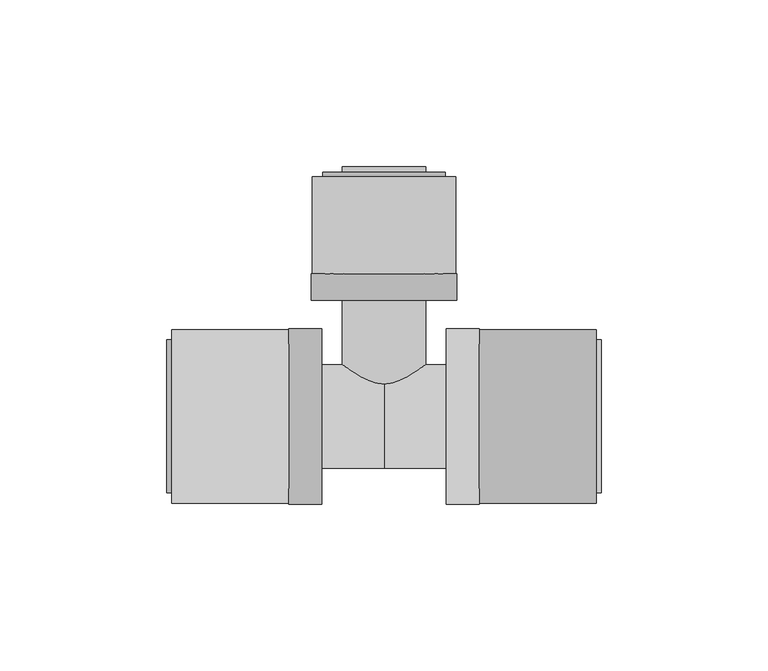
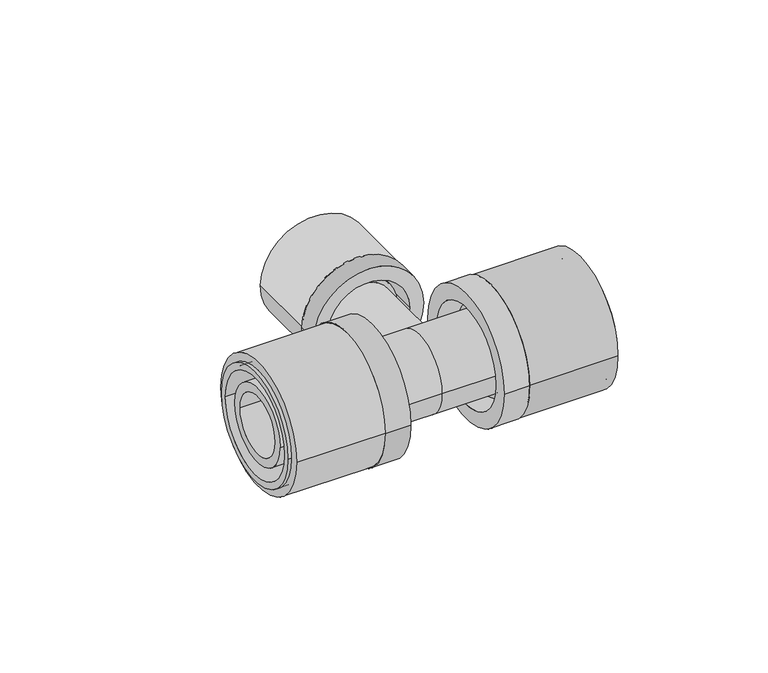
"""IFC4 building model written with IfcOpenShell, lengths in millimetres: pipe fitting geometry, FASTLOC_T-piece_LX : FSL T-Piece LX CZ."""

from ifc_helpers import new_model, si_unit, point, frame, origin, origin_2d, place, context, project, spatial, polyline, circle_curve, trimmed, segment, composite_curve, outline, extrude, source, transform, mapped, element, save
from ifc_brep_helpers import plane_surface, cylinder_surface, revolved_surface, advanced_brep


def pipe_fitting_7e3be5b8(model_context):
    return source(origin(), model_context, "Body", "SolidModel", [
        extrude(outline(composite_curve([segment(trimmed(circle_curve(origin_2d(), 26.0), [point((-26.0, 0.0))], [point((26.0, 0.0))], False, "CARTESIAN"), True, "CONTINUOUS"), segment(trimmed(circle_curve(origin_2d(), 26.0), [point((26.0, 0.0))], [point((-26.0, 0.0))], False, "CARTESIAN"), True, "CONTINUOUS")], self_intersect=False), holes=[composite_curve([segment(trimmed(circle_curve(origin_2d(), 21.25), [point((-21.25, 0.0))], [point((21.25, 0.0))], True, "CARTESIAN"), True, "CONTINUOUS"), segment(trimmed(circle_curve(origin_2d(), 21.25), [point((21.25, 0.0))], [point((-21.25, 0.0))], True, "CARTESIAN"), True, "CONTINUOUS")], self_intersect=False)]), frame((28.6, 0.0, 0.0), z_axis=(1.0, 0.0, 0.0), x_axis=(0.0, 1.0, 0.0)), (0.0, 0.0, 1.0), 35.0),
        advanced_brep(
        [(28.6, 26.3, 0.0), (28.6, -26.3, 0.0), (18.6, -26.3, 0.0), (18.6, 26.3, 0.0), (65.1, 22.9, 0.0), (65.1, -22.9, 0.0), (28.6, -22.9, 0.0), (28.6, 22.9, 0.0), (18.6, 20.2, 0.0), (18.6, -20.2, 0.0), (65.1, -20.2, 0.0), (65.1, 20.2, 0.0)],
        [
            (0, 1, circle_curve(frame((28.6, 0.0, 0.0), z_axis=(-1.0, 0.0, 0.0), x_axis=(0.0, -1.0, 0.0)), 26.3)),
            (1, 2),
            (2, 3, circle_curve(frame((18.6, 0.0, 0.0), z_axis=(1.0, 0.0, 0.0), x_axis=(0.0, -1.0, 0.0)), 26.3)),
            (3, 0),
            (4, 5, circle_curve(frame((65.1, 0.0, 0.0), z_axis=(-1.0, 0.0, 0.0), x_axis=(0.0, -1.0, 0.0)), 22.9)),
            (5, 6),
            (6, 7, circle_curve(frame((28.6, 0.0, 0.0), z_axis=(1.0, 0.0, 0.0), x_axis=(0.0, -1.0, 0.0)), 22.9)),
            (7, 4),
            (8, 9, circle_curve(frame((18.6, 0.0, 0.0), z_axis=(-1.0, 0.0, 0.0), x_axis=(0.0, -1.0, 0.0)), 20.2)),
            (9, 10),
            (10, 11, circle_curve(frame((65.1, 0.0, 0.0), z_axis=(1.0, 0.0, 0.0), x_axis=(0.0, -1.0, 0.0)), 20.2)),
            (11, 8),
            (1, 0, circle_curve(frame((28.6, 0.0, 0.0), z_axis=(-1.0, 0.0, 0.0), x_axis=(0.0, 1.0, 0.0)), 26.3)),
            (3, 2, circle_curve(frame((18.6, 0.0, 0.0), z_axis=(1.0, 0.0, 0.0), x_axis=(0.0, 1.0, 0.0)), 26.3)),
            (6, 7, circle_curve(frame((28.6, 0.0, 0.0), z_axis=(-1.0, 0.0, 0.0), x_axis=(0.0, 1.0, 0.0)), 22.9)),
            (5, 4, circle_curve(frame((65.1, 0.0, 0.0), z_axis=(-1.0, 0.0, 0.0), x_axis=(0.0, 1.0, 0.0)), 22.9)),
            (10, 11, circle_curve(frame((65.1, 0.0, 0.0), z_axis=(-1.0, 0.0, 0.0), x_axis=(0.0, 1.0, 0.0)), 20.2)),
            (9, 8, circle_curve(frame((18.6, 0.0, 0.0), z_axis=(-1.0, 0.0, 0.0), x_axis=(0.0, 1.0, 0.0)), 20.2)),
        ],
        [
            cylinder_surface(frame((18.6, 0.0, 0.0), z_axis=(1.0, 0.0, 0.0), x_axis=(0.0, -1.0, 0.0)), 26.3),
            cylinder_surface(frame((18.6, 0.0, 0.0), z_axis=(1.0, 0.0, 0.0), x_axis=(0.0, -1.0, 0.0)), 22.9),
            revolved_surface(polyline([(65.1, -20.2, 0.0), (18.6, -20.2, 0.0)]), (18.6, 0.0, 0.0), (1.0, 0.0, 0.0)),
            cylinder_surface(frame((18.6, 0.0, 0.0), z_axis=(1.0, 0.0, 0.0), x_axis=(0.0, 1.0, 0.0)), 26.3),
            plane_surface(frame((28.6, 0.0, 0.0), z_axis=(1.0, 0.0, 0.0), x_axis=(0.0, 1.0, 0.0))),
            cylinder_surface(frame((18.6, 0.0, 0.0), z_axis=(1.0, 0.0, 0.0), x_axis=(0.0, 1.0, 0.0)), 22.9),
            plane_surface(frame((65.1, 0.0, 0.0), z_axis=(1.0, 0.0, 0.0), x_axis=(0.0, 1.0, 0.0))),
            revolved_surface(polyline([(65.1, 20.2, 0.0), (18.6, 20.2, 0.0)]), (18.6, 0.0, 0.0), (1.0, 0.0, 0.0)),
            plane_surface(frame((18.6, 0.0, 0.0), z_axis=(-1.0, 0.0, 0.0), x_axis=(0.0, 1.0, 0.0))),
        ],
        [
            (0, [[1, 2, 3, 4]]),
            (1, [[5, 6, 7, 8]]),
            (2, [[9, 10, 11, 12]]),
            (3, [[13, -4, 14, -2]]),
            (4, [[-13, -1], [15, -7]]),
            (5, [[16, -8, -15, -6]]),
            (6, [[-16, -5], [17, -11]]),
            (7, [[18, -12, -17, -10]]),
            (8, [[-14, -3], [-18, -9]]),
        ],
    ),
        extrude(outline(composite_curve([segment(trimmed(circle_curve(origin_2d(), 26.0), [point((26.0, 0.0))], [point((-26.0, 0.0))], False, "CARTESIAN"), True, "CONTINUOUS"), segment(trimmed(circle_curve(origin_2d(), 26.0), [point((-26.0, 0.0))], [point((26.0, 0.0))], False, "CARTESIAN"), True, "CONTINUOUS")], self_intersect=False), holes=[composite_curve([segment(trimmed(circle_curve(origin_2d(), 21.25), [point((21.25, 0.0))], [point((-21.25, 0.0))], True, "CARTESIAN"), True, "CONTINUOUS"), segment(trimmed(circle_curve(origin_2d(), 21.25), [point((-21.25, 0.0))], [point((21.25, 0.0))], True, "CARTESIAN"), True, "CONTINUOUS")], self_intersect=False)]), frame((-63.6, 0.0, 0.0), z_axis=(1.0, 0.0, 0.0), x_axis=(0.0, 1.0, 0.0)), (0.0, 0.0, 1.0), 35.0),
        advanced_brep(
        [(-28.6, -26.3, 0.0), (-28.6, 26.3, 0.0), (-18.6, 26.3, 0.0), (-18.6, -26.3, 0.0), (-65.1, -22.9, 0.0), (-65.1, 22.9, 0.0), (-28.6, 22.9, 0.0), (-28.6, -22.9, 0.0), (-18.6, -20.2, 0.0), (-18.6, 20.2, 0.0), (-65.1, 20.2, 0.0), (-65.1, -20.2, 0.0)],
        [
            (0, 1, circle_curve(frame((-28.6, 0.0, 0.0), z_axis=(1.0, 0.0, 0.0), x_axis=(0.0, 1.0, 0.0)), 26.3)),
            (1, 2),
            (2, 3, circle_curve(frame((-18.6, 0.0, 0.0), z_axis=(-1.0, 0.0, 0.0), x_axis=(0.0, 1.0, 0.0)), 26.3)),
            (3, 0),
            (4, 5, circle_curve(frame((-65.1, 0.0, 0.0), z_axis=(1.0, 0.0, 0.0), x_axis=(0.0, 1.0, 0.0)), 22.9)),
            (5, 6),
            (6, 7, circle_curve(frame((-28.6, 0.0, 0.0), z_axis=(-1.0, 0.0, 0.0), x_axis=(0.0, 1.0, 0.0)), 22.9)),
            (7, 4),
            (8, 9, circle_curve(frame((-18.6, 0.0, 0.0), z_axis=(1.0, 0.0, 0.0), x_axis=(0.0, 1.0, 0.0)), 20.2)),
            (9, 10),
            (10, 11, circle_curve(frame((-65.1, 0.0, 0.0), z_axis=(-1.0, 0.0, 0.0), x_axis=(0.0, 1.0, 0.0)), 20.2)),
            (11, 8),
            (1, 0, circle_curve(frame((-28.6, 0.0, 0.0), z_axis=(1.0, 0.0, 0.0), x_axis=(0.0, -1.0, 0.0)), 26.3)),
            (3, 2, circle_curve(frame((-18.6, 0.0, 0.0), z_axis=(-1.0, 0.0, 0.0), x_axis=(0.0, -1.0, 0.0)), 26.3)),
            (6, 7, circle_curve(frame((-28.6, 0.0, 0.0), z_axis=(1.0, 0.0, 0.0), x_axis=(0.0, -1.0, 0.0)), 22.9)),
            (5, 4, circle_curve(frame((-65.1, 0.0, 0.0), z_axis=(1.0, 0.0, 0.0), x_axis=(0.0, -1.0, 0.0)), 22.9)),
            (10, 11, circle_curve(frame((-65.1, 0.0, 0.0), z_axis=(1.0, 0.0, 0.0), x_axis=(0.0, -1.0, 0.0)), 20.2)),
            (9, 8, circle_curve(frame((-18.6, 0.0, 0.0), z_axis=(1.0, 0.0, 0.0), x_axis=(0.0, -1.0, 0.0)), 20.2)),
        ],
        [
            cylinder_surface(frame((-18.6, 0.0, 0.0), z_axis=(-1.0, 0.0, 0.0), x_axis=(0.0, 1.0, 0.0)), 26.3),
            cylinder_surface(frame((-18.6, 0.0, 0.0), z_axis=(-1.0, 0.0, 0.0), x_axis=(0.0, 1.0, 0.0)), 22.9),
            revolved_surface(polyline([(-65.1, 20.2, 0.0), (-18.6, 20.2, 0.0)]), (-18.6, 0.0, 0.0), (-1.0, 0.0, 0.0)),
            cylinder_surface(frame((-18.6, 0.0, 0.0), z_axis=(-1.0, 0.0, 0.0), x_axis=(0.0, -1.0, 0.0)), 26.3),
            plane_surface(frame((-28.6, 0.0, 0.0), z_axis=(-1.0, 0.0, 0.0), x_axis=(0.0, -1.0, 0.0))),
            cylinder_surface(frame((-18.6, 0.0, 0.0), z_axis=(-1.0, 0.0, 0.0), x_axis=(0.0, -1.0, 0.0)), 22.9),
            plane_surface(frame((-65.1, 0.0, 0.0), z_axis=(-1.0, 0.0, 0.0), x_axis=(0.0, -1.0, 0.0))),
            revolved_surface(polyline([(-65.1, -20.2, 0.0), (-18.6, -20.2, 0.0)]), (-18.6, 0.0, 0.0), (-1.0, 0.0, 0.0)),
            plane_surface(frame((-18.6, 0.0, 0.0), z_axis=(1.0, 0.0, 0.0), x_axis=(0.0, -1.0, 0.0))),
        ],
        [
            (0, [[1, 2, 3, 4]]),
            (1, [[5, 6, 7, 8]]),
            (2, [[9, 10, 11, 12]]),
            (3, [[13, -4, 14, -2]]),
            (4, [[-13, -1], [15, -7]]),
            (5, [[16, -8, -15, -6]]),
            (6, [[-16, -5], [17, -11]]),
            (7, [[18, -12, -17, -10]]),
            (8, [[-14, -3], [-18, -9]]),
        ],
    ),
        extrude(outline(composite_curve([segment(trimmed(circle_curve(origin_2d(), 21.5), [point((0.0, 21.5))], [point((0.0, -21.5))], False, "CARTESIAN"), True, "CONTINUOUS"), segment(trimmed(circle_curve(origin_2d(), 21.5), [point((0.0, -21.5))], [point((0.0, 21.5))], False, "CARTESIAN"), True, "CONTINUOUS")], self_intersect=False), holes=[composite_curve([segment(trimmed(circle_curve(origin_2d(), 16.85), [point((0.0, 16.85))], [point((0.0, -16.85))], True, "CARTESIAN"), True, "CONTINUOUS"), segment(trimmed(circle_curve(origin_2d(), 16.85), [point((0.0, -16.85))], [point((0.0, 16.85))], True, "CARTESIAN"), True, "CONTINUOUS")], self_intersect=False)]), frame((0.0, 42.8, 0.0), z_axis=(0.0, 1.0, 0.0), x_axis=(0.0, 0.0, 1.0)), (0.0, 0.0, 1.0), 29.0),
        advanced_brep(
        [(-21.8, 42.8, 0.0), (21.8, 42.8, 0.0), (21.8, 34.8, 0.0), (-21.8, 34.8, 0.0), (-18.35, 73.1, 0.0), (18.35, 73.1, 0.0), (18.35, 42.8, 0.0), (-18.35, 42.8, 0.0), (-16.2, 34.8, 0.0), (16.2, 34.8, 0.0), (16.2, 73.1, 0.0), (-16.2, 73.1, 0.0)],
        [
            (0, 1, circle_curve(frame((0.0, 42.8, 0.0), z_axis=(0.0, -1.0, 0.0), x_axis=(1.0, 0.0, 0.0)), 21.8)),
            (1, 2),
            (2, 3, circle_curve(frame((0.0, 34.8, 0.0), z_axis=(0.0, 1.0, 0.0), x_axis=(1.0, 0.0, 0.0)), 21.8)),
            (3, 0),
            (4, 5, circle_curve(frame((0.0, 73.1, 0.0), z_axis=(0.0, -1.0, 0.0), x_axis=(1.0, 0.0, 0.0)), 18.35)),
            (5, 6),
            (6, 7, circle_curve(frame((0.0, 42.8, 0.0), z_axis=(0.0, 1.0, 0.0), x_axis=(1.0, 0.0, 0.0)), 18.35)),
            (7, 4),
            (8, 9, circle_curve(frame((0.0, 34.8, 0.0), z_axis=(0.0, -1.0, 0.0), x_axis=(1.0, 0.0, 0.0)), 16.2)),
            (9, 10),
            (10, 11, circle_curve(frame((0.0, 73.1, 0.0), z_axis=(0.0, 1.0, 0.0), x_axis=(1.0, 0.0, 0.0)), 16.2)),
            (11, 8),
            (1, 0, circle_curve(frame((0.0, 42.8, 0.0), z_axis=(0.0, -1.0, 0.0), x_axis=(-1.0, 0.0, 0.0)), 21.8)),
            (3, 2, circle_curve(frame((0.0, 34.8, 0.0), z_axis=(0.0, 1.0, 0.0), x_axis=(-1.0, 0.0, 0.0)), 21.8)),
            (6, 7, circle_curve(frame((0.0, 42.8, 0.0), z_axis=(0.0, -1.0, 0.0), x_axis=(-1.0, 0.0, 0.0)), 18.35)),
            (5, 4, circle_curve(frame((0.0, 73.1, 0.0), z_axis=(0.0, -1.0, 0.0), x_axis=(-1.0, 0.0, 0.0)), 18.35)),
            (10, 11, circle_curve(frame((0.0, 73.1, 0.0), z_axis=(0.0, -1.0, 0.0), x_axis=(-1.0, 0.0, 0.0)), 16.2)),
            (9, 8, circle_curve(frame((0.0, 34.8, 0.0), z_axis=(0.0, -1.0, 0.0), x_axis=(-1.0, 0.0, 0.0)), 16.2)),
        ],
        [
            cylinder_surface(frame((0.0, 34.8, 0.0), z_axis=(0.0, 1.0, 0.0), x_axis=(1.0, 0.0, 0.0)), 21.8),
            cylinder_surface(frame((0.0, 34.8, 0.0), z_axis=(0.0, 1.0, 0.0), x_axis=(1.0, 0.0, 0.0)), 18.35),
            revolved_surface(polyline([(16.2, 73.1, 0.0), (16.2, 34.8, 0.0)]), (0.0, 34.8, 0.0), (0.0, 1.0, 0.0)),
            cylinder_surface(frame((0.0, 34.8, 0.0), z_axis=(0.0, 1.0, 0.0), x_axis=(-1.0, 0.0, 0.0)), 21.8),
            plane_surface(frame((0.0, 42.8, 0.0), z_axis=(0.0, 1.0, 0.0), x_axis=(-1.0, 0.0, 0.0))),
            cylinder_surface(frame((0.0, 34.8, 0.0), z_axis=(0.0, 1.0, 0.0), x_axis=(-1.0, 0.0, 0.0)), 18.35),
            plane_surface(frame((0.0, 73.1, 0.0), z_axis=(0.0, 1.0, 0.0), x_axis=(-1.0, 0.0, 0.0))),
            revolved_surface(polyline([(-16.2, 73.1, 0.0), (-16.2, 34.8, 0.0)]), (0.0, 34.8, 0.0), (0.0, 1.0, 0.0)),
            plane_surface(frame((0.0, 34.8, 0.0), z_axis=(0.0, -1.0, 0.0), x_axis=(-1.0, 0.0, 0.0))),
        ],
        [
            (0, [[1, 2, 3, 4]]),
            (1, [[5, 6, 7, 8]]),
            (2, [[9, 10, 11, 12]]),
            (3, [[13, -4, 14, -2]]),
            (4, [[-13, -1], [15, -7]]),
            (5, [[16, -8, -15, -6]]),
            (6, [[-16, -5], [17, -11]]),
            (7, [[18, -12, -17, -10]]),
            (8, [[-14, -3], [-18, -9]]),
        ],
    ),
        advanced_brep(
        [(0.0, 15.5, 0.0), (0.0, -15.5, 0.0), (-24.9, -15.5, 0.0), (-24.9, 15.5, 0.0), (24.9, 15.5, 0.0), (24.9, -15.5, 0.0), (28.6, 17.2, 0.0), (28.6, -17.2, 0.0), (24.9, -17.2, 0.0), (24.9, 17.2, 0.0), (64.1, 15.5, 0.0), (64.1, -15.5, 0.0), (28.6, -15.5, 0.0), (28.6, 15.5, 0.0), (-28.6, 15.5, 0.0), (-28.6, -15.5, 0.0), (-64.1, -15.5, 0.0), (-64.1, 15.5, 0.0), (-24.9, 17.2, 0.0), (-24.9, -17.2, 0.0), (-28.6, -17.2, 0.0), (-28.6, 17.2, 0.0), (64.1, -11.95, 0.0), (64.1, 11.95, 0.0), (-64.1, 11.95, 0.0), (-64.1, -11.95, 0.0), (0.0, 11.95, 0.0), (0.0, -11.95, 0.0)],
        [
            (0, 1, circle_curve(frame((0.0, 0.0, 0.0), z_axis=(-1.0, 0.0, 0.0), x_axis=(0.0, -1.0, 0.0)), 15.5)),
            (1, 2),
            (2, 3, circle_curve(frame((-24.9, 0.0, 0.0), z_axis=(1.0, 0.0, 0.0), x_axis=(0.0, -1.0, 0.0)), 15.5)),
            (3, 0),
            (4, 5, circle_curve(frame((24.9, 0.0, 0.0), z_axis=(-1.0, 0.0, 0.0), x_axis=(0.0, -1.0, 0.0)), 15.5)),
            (5, 1),
            (0, 4),
            (6, 7, circle_curve(frame((28.6, 0.0, 0.0), z_axis=(-1.0, 0.0, 0.0), x_axis=(0.0, -1.0, 0.0)), 17.2)),
            (7, 8),
            (8, 9, circle_curve(frame((24.9, 0.0, 0.0), z_axis=(1.0, 0.0, 0.0), x_axis=(0.0, -1.0, 0.0)), 17.2)),
            (9, 6),
            (10, 11, circle_curve(frame((64.1, 0.0, 0.0), z_axis=(-1.0, 0.0, 0.0), x_axis=(0.0, -1.0, 0.0)), 15.5)),
            (11, 12),
            (12, 13, circle_curve(frame((28.6, 0.0, 0.0), z_axis=(1.0, 0.0, 0.0), x_axis=(0.0, -1.0, 0.0)), 15.5)),
            (13, 10),
            (14, 15, circle_curve(frame((-28.6, 0.0, 0.0), z_axis=(-1.0, 0.0, 0.0), x_axis=(0.0, -1.0, 0.0)), 15.5)),
            (15, 16),
            (16, 17, circle_curve(frame((-64.1, 0.0, 0.0), z_axis=(1.0, 0.0, 0.0), x_axis=(0.0, -1.0, 0.0)), 15.5)),
            (17, 14),
            (18, 19, circle_curve(frame((-24.9, 0.0, 0.0), z_axis=(-1.0, 0.0, 0.0), x_axis=(0.0, -1.0, 0.0)), 17.2)),
            (19, 20),
            (20, 21, circle_curve(frame((-28.6, 0.0, 0.0), z_axis=(1.0, 0.0, 0.0), x_axis=(0.0, -1.0, 0.0)), 17.2)),
            (21, 18),
            (18, 19, circle_curve(frame((-24.9, 0.0, 0.0), z_axis=(1.0, 0.0, 0.0), x_axis=(0.0, 1.0, 0.0)), 17.2)),
            (2, 3, circle_curve(frame((-24.9, 0.0, 0.0), z_axis=(-1.0, 0.0, 0.0), x_axis=(0.0, 1.0, 0.0)), 15.5)),
            (1, 0, circle_curve(frame((0.0, 0.0, 0.0), z_axis=(-1.0, 0.0, 0.0), x_axis=(0.0, 1.0, 0.0)), 15.5)),
            (5, 4, circle_curve(frame((24.9, 0.0, 0.0), z_axis=(-1.0, 0.0, 0.0), x_axis=(0.0, 1.0, 0.0)), 15.5)),
            (8, 9, circle_curve(frame((24.9, 0.0, 0.0), z_axis=(-1.0, 0.0, 0.0), x_axis=(0.0, 1.0, 0.0)), 17.2)),
            (7, 6, circle_curve(frame((28.6, 0.0, 0.0), z_axis=(-1.0, 0.0, 0.0), x_axis=(0.0, 1.0, 0.0)), 17.2)),
            (12, 13, circle_curve(frame((28.6, 0.0, 0.0), z_axis=(-1.0, 0.0, 0.0), x_axis=(0.0, 1.0, 0.0)), 15.5)),
            (11, 10, circle_curve(frame((64.1, 0.0, 0.0), z_axis=(-1.0, 0.0, 0.0), x_axis=(0.0, 1.0, 0.0)), 15.5)),
            (22, 23, circle_curve(frame((64.1, 0.0, 0.0), z_axis=(-1.0, 0.0, 0.0), x_axis=(0.0, 1.0, 0.0)), 11.95)),
            (23, 22, circle_curve(frame((64.1, 0.0, 0.0), z_axis=(-1.0, 0.0, 0.0), x_axis=(0.0, -1.0, 0.0)), 11.95)),
            (16, 17, circle_curve(frame((-64.1, 0.0, 0.0), z_axis=(-1.0, 0.0, 0.0), x_axis=(0.0, 1.0, 0.0)), 15.5)),
            (24, 25, circle_curve(frame((-64.1, 0.0, 0.0), z_axis=(1.0, 0.0, 0.0), x_axis=(0.0, 1.0, 0.0)), 11.95)),
            (25, 24, circle_curve(frame((-64.1, 0.0, 0.0), z_axis=(1.0, 0.0, 0.0), x_axis=(0.0, -1.0, 0.0)), 11.95)),
            (15, 14, circle_curve(frame((-28.6, 0.0, 0.0), z_axis=(-1.0, 0.0, 0.0), x_axis=(0.0, 1.0, 0.0)), 15.5)),
            (20, 21, circle_curve(frame((-28.6, 0.0, 0.0), z_axis=(-1.0, 0.0, 0.0), x_axis=(0.0, 1.0, 0.0)), 17.2)),
            (26, 27, circle_curve(frame((0.0, 0.0, 0.0), z_axis=(-1.0, 0.0, 0.0), x_axis=(0.0, -1.0, 0.0)), 11.95)),
            (27, 22),
            (23, 26),
            (25, 27),
            (26, 24),
            (27, 26, circle_curve(frame((0.0, 0.0, 0.0), z_axis=(-1.0, 0.0, 0.0), x_axis=(0.0, 1.0, 0.0)), 11.95)),
        ],
        [
            cylinder_surface(frame((0.0, 0.0, 0.0), z_axis=(1.0, 0.0, 0.0), x_axis=(0.0, -1.0, 0.0)), 15.5),
            cylinder_surface(frame((0.0, 0.0, 0.0), z_axis=(1.0, 0.0, 0.0), x_axis=(0.0, -1.0, 0.0)), 17.2),
            plane_surface(frame((-24.9, 0.0, 0.0), z_axis=(1.0, 0.0, 0.0), x_axis=(0.0, 1.0, 0.0))),
            cylinder_surface(frame((0.0, 0.0, 0.0), z_axis=(1.0, 0.0, 0.0), x_axis=(0.0, 1.0, 0.0)), 15.5),
            plane_surface(frame((24.9, 0.0, 0.0), z_axis=(-1.0, 0.0, 0.0), x_axis=(0.0, 1.0, 0.0))),
            cylinder_surface(frame((0.0, 0.0, 0.0), z_axis=(1.0, 0.0, 0.0), x_axis=(0.0, 1.0, 0.0)), 17.2),
            plane_surface(frame((28.6, 0.0, 0.0), z_axis=(1.0, 0.0, 0.0), x_axis=(0.0, 1.0, 0.0))),
            plane_surface(frame((64.1, 0.0, 0.0), z_axis=(1.0, 0.0, 0.0), x_axis=(0.0, 1.0, 0.0))),
            plane_surface(frame((-64.1, 0.0, 0.0), z_axis=(-1.0, 0.0, 0.0), x_axis=(0.0, 1.0, 0.0))),
            plane_surface(frame((-28.6, 0.0, 0.0), z_axis=(-1.0, 0.0, 0.0), x_axis=(0.0, 1.0, 0.0))),
            revolved_surface(polyline([(64.1, -11.95, 0.0), (0.0, -11.95, 0.0)]), (0.0, 0.0, 0.0), (1.0, 0.0, 0.0)),
            revolved_surface(polyline([(0.0, -11.95, 0.0), (-64.1, -11.95, 0.0)]), (0.0, 0.0, 0.0), (1.0, 0.0, 0.0)),
            revolved_surface(polyline([(64.1, 11.95, 0.0), (0.0, 11.95, 0.0)]), (0.0, 0.0, 0.0), (1.0, 0.0, 0.0)),
            revolved_surface(polyline([(0.0, 11.95, 0.0), (-64.1, 11.95, 0.0)]), (0.0, 0.0, 0.0), (1.0, 0.0, 0.0)),
        ],
        [
            (0, [[1, 2, 3, 4]]),
            (0, [[5, 6, -1, 7]]),
            (1, [[8, 9, 10, 11]]),
            (0, [[12, 13, 14, 15]]),
            (0, [[16, 17, 18, 19]]),
            (1, [[20, 21, 22, 23]]),
            (2, [[24, -20], [25, -3]]),
            (3, [[26, -4, -25, -2]]),
            (3, [[27, -7, -26, -6]]),
            (4, [[28, -10], [-27, -5]]),
            (5, [[29, -11, -28, -9]]),
            (6, [[-29, -8], [30, -14]]),
            (3, [[31, -15, -30, -13]]),
            (7, [[-31, -12], [32, 33]]),
            (8, [[34, -18], [35, 36]]),
            (3, [[37, -19, -34, -17]]),
            (9, [[38, -22], [-37, -16]]),
            (5, [[-24, -23, -38, -21]]),
            (10, [[39, 40, -33, 41]]),
            (11, [[-36, 42, -39, 43]]),
            (12, [[44, -41, -32, -40]]),
            (13, [[-35, -43, -44, -42]]),
        ],
    ),
        advanced_brep(
        [(9.85, 74.8, 0.0), (-9.85, 74.8, 0.0), (-9.85, 0.0, 0.0), (9.85, 0.0, 0.0), (12.5, 0.0, 0.0), (-12.5, 0.0, 0.0), (-12.5, 39.8, 0.0), (12.5, 39.8, 0.0), (14.1, 39.8, 0.0), (-14.1, 39.8, 0.0), (-14.1, 42.8, 0.0), (14.1, 42.8, 0.0), (12.5, 42.8, 0.0), (-12.5, 42.8, 0.0), (-12.5, 74.8, 0.0), (12.5, 74.8, 0.0)],
        [
            (0, 1, circle_curve(frame((0.0, 74.8, 0.0), z_axis=(0.0, 1.0, 0.0), x_axis=(-1.0, 0.0, 0.0)), 9.85)),
            (1, 2),
            (2, 3, circle_curve(frame((0.0, 0.0, 0.0), z_axis=(0.0, -1.0, 0.0), x_axis=(-1.0, 0.0, 0.0)), 9.85)),
            (3, 0),
            (4, 5, circle_curve(frame((0.0, 0.0, 0.0), z_axis=(0.0, 1.0, 0.0), x_axis=(-1.0, 0.0, 0.0)), 12.5)),
            (5, 6),
            (6, 7, circle_curve(frame((0.0, 39.8, 0.0), z_axis=(0.0, -1.0, 0.0), x_axis=(-1.0, 0.0, 0.0)), 12.5)),
            (7, 4),
            (8, 9, circle_curve(frame((0.0, 39.8, 0.0), z_axis=(0.0, 1.0, 0.0), x_axis=(-1.0, 0.0, 0.0)), 14.1)),
            (9, 10),
            (10, 11, circle_curve(frame((0.0, 42.8, 0.0), z_axis=(0.0, -1.0, 0.0), x_axis=(-1.0, 0.0, 0.0)), 14.1)),
            (11, 8),
            (12, 13, circle_curve(frame((0.0, 42.8, 0.0), z_axis=(0.0, 1.0, 0.0), x_axis=(-1.0, 0.0, 0.0)), 12.5)),
            (13, 14),
            (14, 15, circle_curve(frame((0.0, 74.8, 0.0), z_axis=(0.0, -1.0, 0.0), x_axis=(-1.0, 0.0, 0.0)), 12.5)),
            (15, 12),
            (1, 0, circle_curve(frame((0.0, 74.8, 0.0), z_axis=(0.0, 1.0, 0.0), x_axis=(1.0, 0.0, 0.0)), 9.85)),
            (3, 2, circle_curve(frame((0.0, 0.0, 0.0), z_axis=(0.0, -1.0, 0.0), x_axis=(1.0, 0.0, 0.0)), 9.85)),
            (4, 5, circle_curve(frame((0.0, 0.0, 0.0), z_axis=(0.0, -1.0, 0.0), x_axis=(1.0, 0.0, 0.0)), 12.5)),
            (7, 6, circle_curve(frame((0.0, 39.8, 0.0), z_axis=(0.0, -1.0, 0.0), x_axis=(1.0, 0.0, 0.0)), 12.5)),
            (8, 9, circle_curve(frame((0.0, 39.8, 0.0), z_axis=(0.0, -1.0, 0.0), x_axis=(1.0, 0.0, 0.0)), 14.1)),
            (11, 10, circle_curve(frame((0.0, 42.8, 0.0), z_axis=(0.0, -1.0, 0.0), x_axis=(1.0, 0.0, 0.0)), 14.1)),
            (12, 13, circle_curve(frame((0.0, 42.8, 0.0), z_axis=(0.0, -1.0, 0.0), x_axis=(1.0, 0.0, 0.0)), 12.5)),
            (15, 14, circle_curve(frame((0.0, 74.8, 0.0), z_axis=(0.0, -1.0, 0.0), x_axis=(1.0, 0.0, 0.0)), 12.5)),
        ],
        [
            revolved_surface(polyline([(-9.85, 0.0, 0.0), (-9.85, 74.8, 0.0)]), (0.0, 0.0, 0.0), (0.0, -1.0, 0.0)),
            cylinder_surface(frame((0.0, 0.0, 0.0), z_axis=(0.0, -1.0, 0.0), x_axis=(-1.0, 0.0, 0.0)), 12.5),
            cylinder_surface(frame((0.0, 0.0, 0.0), z_axis=(0.0, -1.0, 0.0), x_axis=(-1.0, 0.0, 0.0)), 14.1),
            revolved_surface(polyline([(9.85, 0.0, 0.0), (9.85, 74.8, 0.0)]), (0.0, 0.0, 0.0), (0.0, -1.0, 0.0)),
            plane_surface(frame((0.0, 0.0, 0.0), z_axis=(0.0, -1.0, 0.0), x_axis=(1.0, 0.0, 0.0))),
            cylinder_surface(frame((0.0, 0.0, 0.0), z_axis=(0.0, -1.0, 0.0), x_axis=(1.0, 0.0, 0.0)), 12.5),
            plane_surface(frame((0.0, 39.8, 0.0), z_axis=(0.0, -1.0, 0.0), x_axis=(1.0, 0.0, 0.0))),
            cylinder_surface(frame((0.0, 0.0, 0.0), z_axis=(0.0, -1.0, 0.0), x_axis=(1.0, 0.0, 0.0)), 14.1),
            plane_surface(frame((0.0, 42.8, 0.0), z_axis=(0.0, 1.0, 0.0), x_axis=(1.0, 0.0, 0.0))),
            plane_surface(frame((0.0, 74.8, 0.0), z_axis=(0.0, 1.0, 0.0), x_axis=(1.0, 0.0, 0.0))),
        ],
        [
            (0, [[1, 2, 3, 4]]),
            (1, [[5, 6, 7, 8]]),
            (2, [[9, 10, 11, 12]]),
            (1, [[13, 14, 15, 16]]),
            (3, [[17, -4, 18, -2]]),
            (4, [[19, -5], [-18, -3]]),
            (5, [[-19, -8, 20, -6]]),
            (6, [[21, -9], [-20, -7]]),
            (7, [[-21, -12, 22, -10]]),
            (8, [[-22, -11], [23, -13]]),
            (5, [[-23, -16, 24, -14]]),
            (9, [[-24, -15], [-17, -1]]),
        ],
    ),
    ])


if __name__ == "__main__":
    model = new_model("IFC4")
    model_context = context("Model", 3, world=origin())
    ifc_project = project(units=[si_unit("LENGTHUNIT", "METRE", prefix="MILLI")], contexts=[model_context])
    site = spatial("IfcSite", under=ifc_project)
    building = spatial("IfcBuilding", under=site)
    placement = place(None, origin())
    pipe_fitting_shape = pipe_fitting_7e3be5b8(model_context)
    element("IfcPipeFitting", 1, ObjectType="FASTLOC_T-piece_LX : FSL T-Piece LX CZ", at=placement, inside=building, context=model_context, shape_type="MappedRepresentation", body=[
        mapped(pipe_fitting_shape, transform((0.0, 0.0, 0.0), x_axis=(1.0, 0.0, 0.0), y_axis=(0.0, 1.0, 0.0), z_axis=(0.0, 0.0, 1.0))),
    ])
    save(model, "model.ifc")
